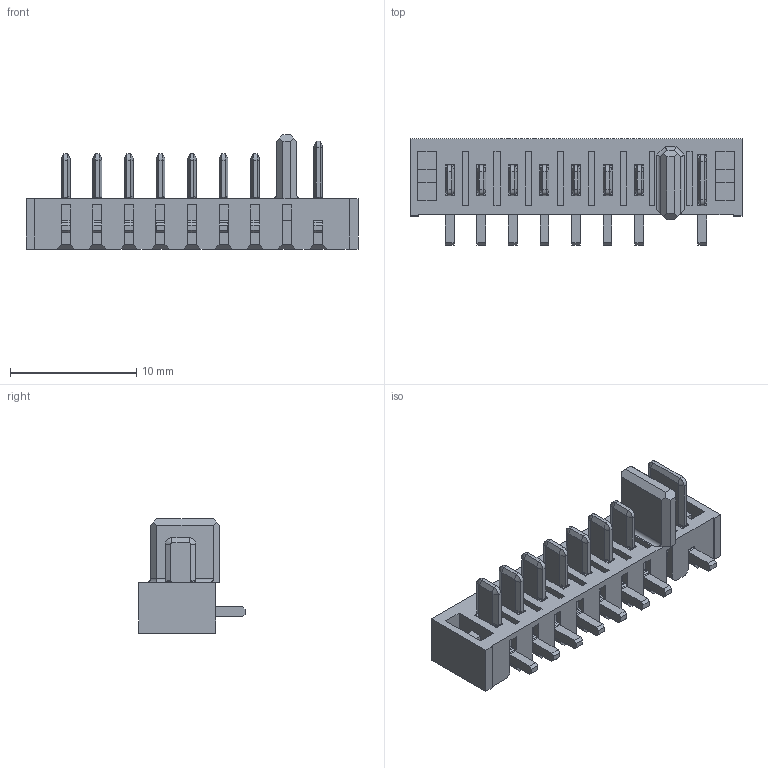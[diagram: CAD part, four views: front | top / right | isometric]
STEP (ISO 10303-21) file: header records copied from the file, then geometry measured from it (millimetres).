
FILE_DESCRIPTION((''),'2;1');
FILE_NAME('51998-008XX-001_ASM','2011-12-28T',('12221915'),(''),'PRO/ENGINEER BY PARAMETRIC TECHNOLOGY CORPORATION, 2009360','PRO/ENGINEER BY PARAMETRIC TECHNOLOGY CORPORATION, 2009360','');
FILE_SCHEMA(('CONFIG_CONTROL_DESIGN'));
Length unit declared in the file: millimetre
Products named in the file (4): 51998-008H; T1; T2; 51998-008XX-001_ASM
Assembly tree (9 placements, depth 2):
  51998-008XX-001_ASM
    51998-008H
    T1
    T2  x7
Bounding box: 26.3 x 8.4 x 9.05 mm (x, y, z)
Volume: 515.8 mm3; surface area: 1561.1 mm2
Topology: 9 solids, 9 shells, 912 faces, 2524 edges, 1632 vertices
Faces by surface type: plane 667, cylinder 181, cone 64
Entity records: 14732 total; most frequent: CARTESIAN_POINT 2741, ORIENTED_EDGE 2576, DIRECTION 2292, EDGE_CURVE 1288, VECTOR 1162, LINE 1162, VERTEX_POINT 840, AXIS2_PLACEMENT_3D 565
